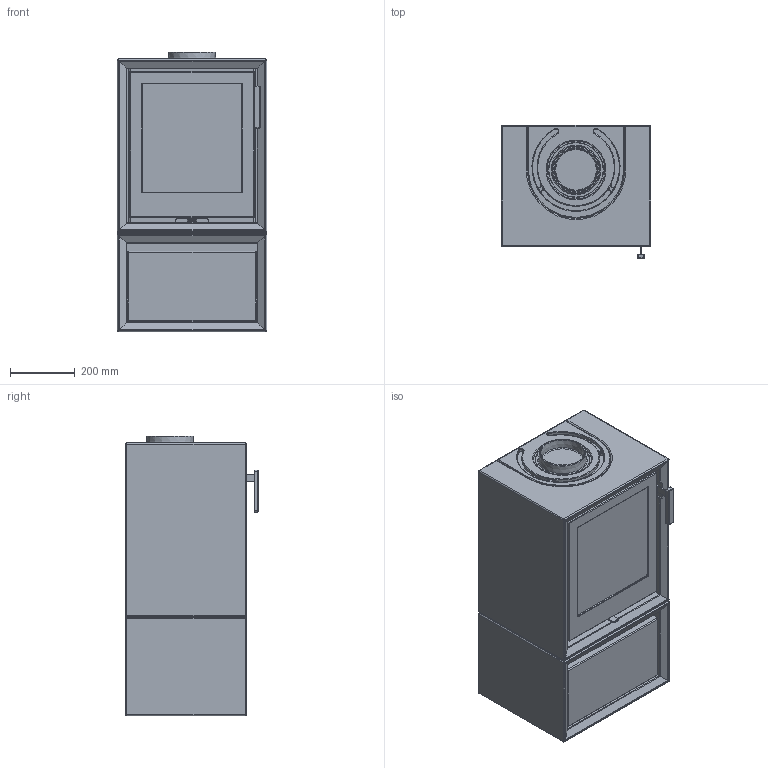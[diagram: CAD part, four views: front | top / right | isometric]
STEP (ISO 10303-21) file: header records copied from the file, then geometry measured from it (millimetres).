
FILE_DESCRIPTION(/* description */ ('Unknown'),/* implementation_level */ '2;1');
FILE_NAME(/* name */ 'DSN1085271_0_asm',/* time_stamp */ '2024-07-04T15:27:45+02:00',/* author */ ('Unknown'),/* organization */ ('NIBE AB'),/* preprocessor_version */ 'ST-DEVELOPER v18.102',/* originating_system */ 'Solid Edge',/* authorisation */ 'Unknown');
FILE_SCHEMA (('CONFIG_CONTROL_DESIGN'));
Length unit declared in the file: millimetre
Products named in the file (8): DSN1085271; DSN1075845; DSN1075829; DSN1075850; DSN1085274; DSN1075838; DSN1075840; DSN1085296
Assembly tree (7 placements, depth 2):
  DSN1085271
    DSN1075845
    DSN1075829
    DSN1075850
    DSN1085274
    DSN1075838
    DSN1075840
    DSN1085296
Bounding box: 463 x 412.5 x 866.5 mm (x, y, z)
Volume: 74698577.4 mm3; surface area: 6714638.8 mm2
Topology: 8 solids, 8 shells, 1167 faces, 2570 edges, 1575 vertices
Faces by surface type: plane 557, cylinder 375, bspline 143, torus 52, sphere 38, cone 2
Full cylindrical faces by diameter (mm): 4.7 x2, 5.7 x7, 6 x8, 7.2 x10, 8.4 x138, 168 x1, 181 x1
Entity records: 36909 total; most frequent: CARTESIAN_POINT 11561, DIRECTION 5032, ORIENTED_EDGE 4624, EDGE_CURVE 2312, AXIS2_PLACEMENT_3D 1900, EDGE_LOOP 1586, FACE_BOUND 1586, VERTEX_POINT 1562
